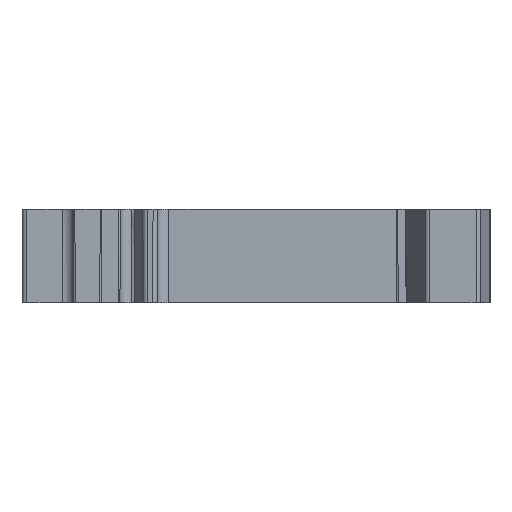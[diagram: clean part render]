
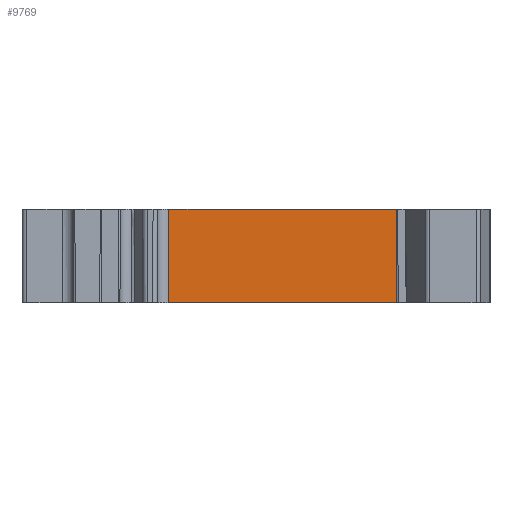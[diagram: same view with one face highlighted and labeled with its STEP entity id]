
A CAD part, front view. The second image highlights one B-rep face of the part: STEP entity #9769.
In plain terms, the highlighted planar face has unit normal (0, -1, -0.004).
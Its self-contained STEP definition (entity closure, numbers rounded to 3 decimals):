
#453=LINE('',#12987,#1174);
#566=LINE('',#13286,#1287);
#774=LINE('',#14061,#1495);
#775=LINE('',#14062,#1496);
#1174=VECTOR('',#10913,1000.);
#1287=VECTOR('',#11120,1000.);
#1495=VECTOR('',#11574,1000.);
#1496=VECTOR('',#11575,1000.);
#2533=ORIENTED_EDGE('',*,*,#4506,.T.);
#2534=ORIENTED_EDGE('',*,*,#4041,.F.);
#2535=ORIENTED_EDGE('',*,*,#4507,.T.);
#2536=ORIENTED_EDGE('',*,*,#4181,.T.);
#4041=EDGE_CURVE('',#5086,#5087,#453,.T.);
#4181=EDGE_CURVE('',#5221,#5220,#566,.T.);
#4506=EDGE_CURVE('',#5220,#5087,#774,.F.);
#4507=EDGE_CURVE('',#5086,#5221,#775,.F.);
#5086=VERTEX_POINT('',#12986);
#5087=VERTEX_POINT('',#12988);
#5220=VERTEX_POINT('',#13285);
#5221=VERTEX_POINT('',#13287);
#5892=EDGE_LOOP('',(#2533,#2534,#2535,#2536));
#6340=FACE_BOUND('',#5892,.T.);
#6757=PLANE('',#10317);
#9769=ADVANCED_FACE('',(#6340),#6757,.T.);
#10317=AXIS2_PLACEMENT_3D('',#14060,#11572,#11573);
#10913=DIRECTION('',(-1.,0.,0.));
#11120=DIRECTION('',(-1.,0.,0.));
#11572=DIRECTION('',(0.,-1.,-0.003));
#11573=DIRECTION('',(0.,-0.003,1.));
#11574=DIRECTION('',(0.003,-0.003,1.));
#11575=DIRECTION('',(0.003,0.003,-1.));
#12986=CARTESIAN_POINT('',(-47.768,130.999,-10.));
#12987=CARTESIAN_POINT('',(-64.103,130.999,-10.));
#12988=CARTESIAN_POINT('',(-73.437,130.999,-10.));
#13285=CARTESIAN_POINT('',(-73.403,130.964,0.));
#13286=CARTESIAN_POINT('',(-64.103,130.964,0.));
#13287=CARTESIAN_POINT('',(-47.803,130.964,0.));
#14060=CARTESIAN_POINT('',(-64.103,130.964,0.));
#14061=CARTESIAN_POINT('',(-73.402,130.964,0.032));
#14062=CARTESIAN_POINT('',(-47.803,130.964,-0.004));
